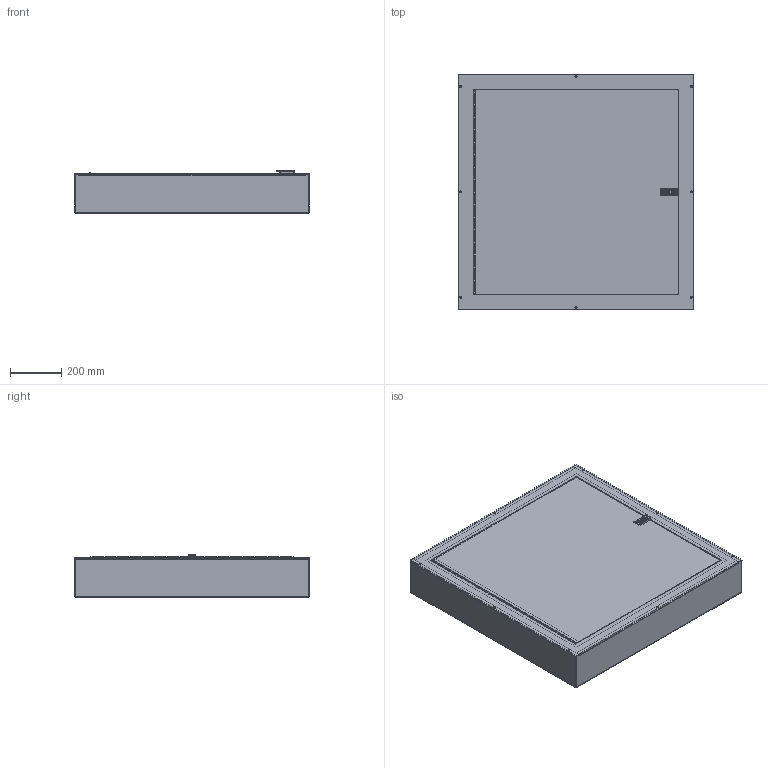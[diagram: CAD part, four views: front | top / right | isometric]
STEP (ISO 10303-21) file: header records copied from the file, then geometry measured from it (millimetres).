
FILE_DESCRIPTION (( 'STEP AP203' ), '1' );
FILE_NAME ('atc36366s.STEP', '2010-04-22T15:40:17', ( 'Hoffman User' ), ( 'Hoffman Enclosures' ), 'SwSTEP 2.0', 'SolidWorks 2009', '' );
FILE_SCHEMA (( 'CONFIG_CONTROL_DESIGN' ));
Length unit declared in the file: inch
Products named in the file (9): T90_Panel_33x33; hinge_assy_50A16_87566962_31in; Hinge_2_50a16_87566962_31in; atc36366s; T90_Body_36x36x6; T90_DoorAssy_36x36; T90_Cover_36x36; T90_Door_36x36; latch_87566953
Assembly tree (9 placements, depth 4):
  atc36366s
    T90_Body_36x36x6
    T90_Panel_33x33
    T90_DoorAssy_36x36
      latch_87566953
      T90_Door_36x36
      hinge_assy_50A16_87566962_31in
        Hinge_2_50a16_87566962_31in  x2
      T90_Cover_36x36
Bounding box: 914.4 x 914.4 x 165.86 mm (x, y, z)
Volume: 19052110.1 mm3; surface area: 6178971.1 mm2
Topology: 12 solids, 12 shells, 823 faces, 2291 edges, 1497 vertices
Faces by surface type: plane 425, cylinder 364, cone 12, torus 10, bspline 8, sphere 4
Entity records: 20780 total; most frequent: CARTESIAN_POINT 5159, ORIENTED_EDGE 3064, DIRECTION 2999, EDGE_CURVE 1532, AXIS2_PLACEMENT_3D 1025, VERTEX_POINT 993, VECTOR 949, LINE 949
